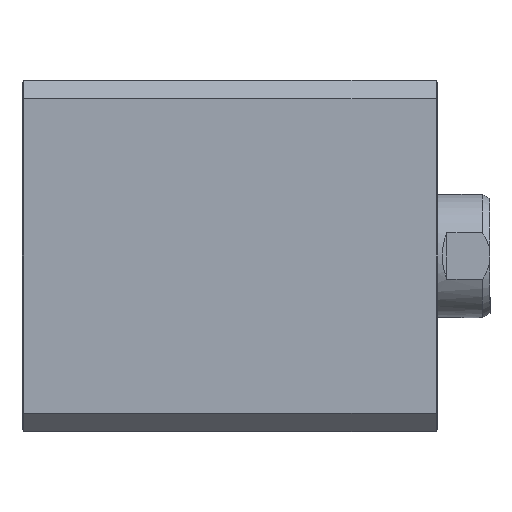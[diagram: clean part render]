
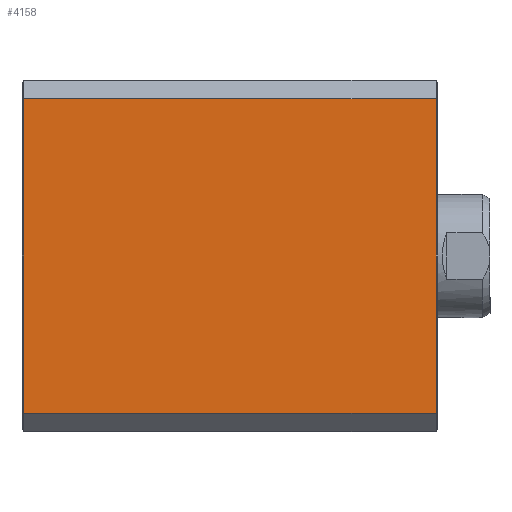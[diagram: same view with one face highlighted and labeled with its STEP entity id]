
A CAD part, left-side view. The second image highlights one B-rep face of the part: STEP entity #4158.
In plain terms, the highlighted planar face has unit normal (-1, 0, 0).
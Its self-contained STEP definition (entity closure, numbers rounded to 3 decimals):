
#132=LINE('',#5835,#426);
#134=LINE('',#5839,#428);
#135=LINE('',#5841,#429);
#136=LINE('',#5843,#430);
#426=VECTOR('',#4779,1000.);
#428=VECTOR('',#4783,1000.);
#429=VECTOR('',#4784,1000.);
#430=VECTOR('',#4785,1000.);
#927=ORIENTED_EDGE('',*,*,#1612,.F.);
#928=ORIENTED_EDGE('',*,*,#1614,.T.);
#929=ORIENTED_EDGE('',*,*,#1615,.T.);
#930=ORIENTED_EDGE('',*,*,#1616,.T.);
#1612=EDGE_CURVE('',#1964,#1965,#132,.T.);
#1614=EDGE_CURVE('',#1964,#1966,#134,.T.);
#1615=EDGE_CURVE('',#1966,#1967,#135,.T.);
#1616=EDGE_CURVE('',#1967,#1965,#136,.T.);
#1964=VERTEX_POINT('',#5834);
#1965=VERTEX_POINT('',#5836);
#1966=VERTEX_POINT('',#5840);
#1967=VERTEX_POINT('',#5842);
#2254=EDGE_LOOP('',(#927,#928,#929,#930));
#2492=FACE_BOUND('',#2254,.T.);
#2675=PLANE('',#4383);
#4158=ADVANCED_FACE('',(#2492),#2675,.T.);
#4383=AXIS2_PLACEMENT_3D('',#5838,#4781,#4782);
#4779=DIRECTION('',(0.,-1.,0.));
#4781=DIRECTION('',(-1.,0.,0.));
#4782=DIRECTION('',(0.,-1.,0.));
#4783=DIRECTION('',(0.,0.,-1.));
#4784=DIRECTION('',(0.,-1.,0.));
#4785=DIRECTION('',(0.,0.,1.));
#5834=CARTESIAN_POINT('',(-57.022,134.5,51.));
#5835=CARTESIAN_POINT('',(-57.022,105.,51.));
#5836=CARTESIAN_POINT('',(-57.022,0.5,51.));
#5838=CARTESIAN_POINT('',(-57.022,105.,51.));
#5839=CARTESIAN_POINT('',(-57.022,134.5,51.));
#5840=CARTESIAN_POINT('',(-57.022,134.5,-51.));
#5841=CARTESIAN_POINT('',(-57.022,105.,-51.));
#5842=CARTESIAN_POINT('',(-57.022,0.5,-51.));
#5843=CARTESIAN_POINT('',(-57.022,0.5,51.));
